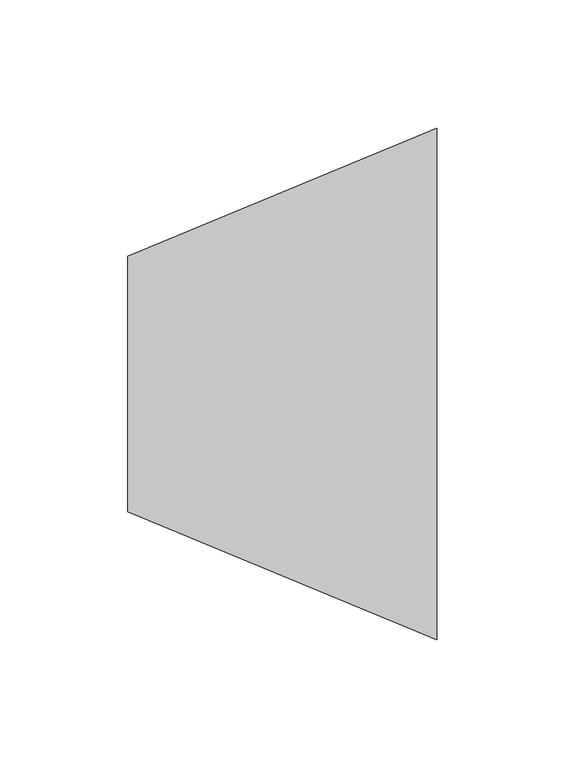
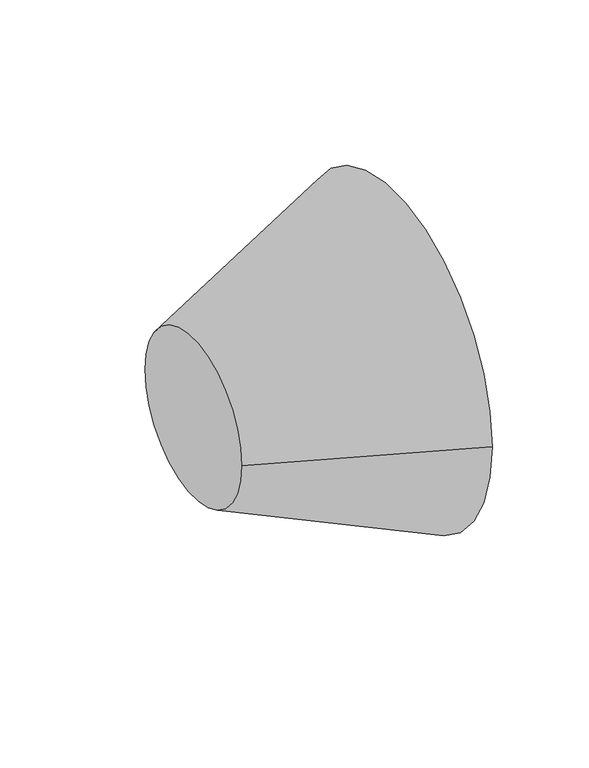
"""IFC4 building model written with IfcOpenShell, lengths in millimetres: duct fitting geometry, M_Transición redonda - Ángulo : EXT_45 graus."""

from ifc_helpers import new_model, si_unit, frame, origin, place, context, project, spatial, polyline, circle_curve, source, transform, mapped, element, save
from ifc_brep_helpers import plane_surface, revolved_surface, advanced_brep


def duct_fitting_e1dc29f6(model_context):
    return source(origin(), model_context, "Body", "AdvancedBrep", [
        advanced_brep(
        [(120.7106781, 100.0, 0.0), (120.7106781, -100.0, 0.0), (0.0, 50.0, 0.0), (0.0, -50.0, 0.0)],
        [
            (0, 1, circle_curve(frame((120.7106781, 0.0, 0.0), z_axis=(1.0, 0.0, 0.0), x_axis=(0.0, -1.0, 0.0)), 100.0)),
            (1, 0, circle_curve(frame((120.7106781, 0.0, 0.0), z_axis=(1.0, 0.0, 0.0), x_axis=(0.0, 1.0, 0.0)), 100.0)),
            (2, 3, circle_curve(frame((0.0, 0.0, 0.0), z_axis=(-1.0, 0.0, 0.0), x_axis=(0.0, 1.0, 0.0)), 50.0)),
            (3, 2, circle_curve(frame((0.0, 0.0, 0.0), z_axis=(-1.0, 0.0, 0.0), x_axis=(0.0, -1.0, 0.0)), 50.0)),
            (2, 0),
            (1, 3),
        ],
        [
            plane_surface(frame((120.7106781, 0.0, 0.0), z_axis=(1.0, 0.0, 0.0), x_axis=(0.0, 0.0, -1.0))),
            plane_surface(frame((0.0, 0.0, 0.0), z_axis=(-1.0, 0.0, 0.0), x_axis=(0.0, 0.0, -1.0))),
            revolved_surface(polyline([(0.0, 50.0, 0.0), (120.7106781, 100.0, 0.0)]), (-120.7106781, 0.0, 0.0), (1.0, 0.0, 0.0)),
            revolved_surface(polyline([(0.0, -50.0, 0.0), (120.7106781, -100.0, 0.0)]), (-120.7106781, 0.0, 0.0), (1.0, 0.0, 0.0)),
        ],
        [
            (0, [[1, 2]]),
            (1, [[3, 4]]),
            (2, [[5, -2, 6, -3]]),
            (3, [[-6, -1, -5, -4]]),
        ],
    ),
    ])


if __name__ == "__main__":
    model = new_model("IFC4")
    model_context = context("Model", 3, world=origin())
    ifc_project = project(units=[si_unit("LENGTHUNIT", "METRE", prefix="MILLI")], contexts=[model_context])
    site = spatial("IfcSite", under=ifc_project)
    building = spatial("IfcBuilding", under=site)
    placement = place(None, origin())
    duct_fitting_shape = duct_fitting_e1dc29f6(model_context)
    element("IfcDuctFitting", 1, ObjectType="M_Transición redonda - Ángulo : EXT_45 graus", at=placement, inside=building, context=model_context, shape_type="MappedRepresentation", body=[
        mapped(duct_fitting_shape, transform((0.0, 0.0, 0.0), x_axis=(1.0, 0.0, 0.0), y_axis=(0.0, 1.0, 0.0), z_axis=(0.0, 0.0, 1.0))),
    ])
    save(model, "model.ifc")
